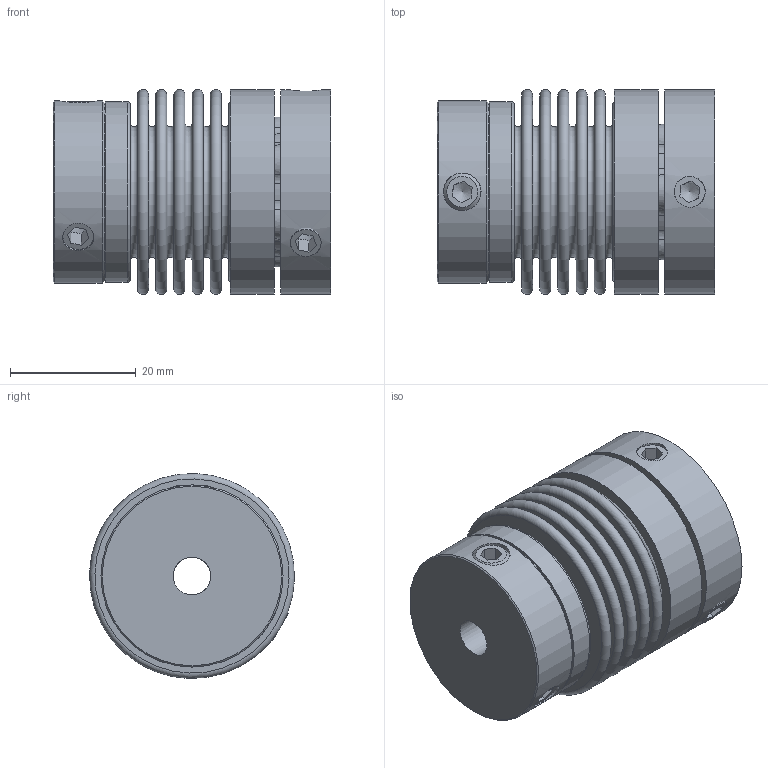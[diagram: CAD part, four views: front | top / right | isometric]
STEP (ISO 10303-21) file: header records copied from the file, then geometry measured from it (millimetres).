
FILE_DESCRIPTION( ( 'KBE1/14 - N7H8 - N14H7 - 98 Sh' ), '1' );
FILE_NAME( 'K:/Konstruktion/Fertigungszeichnungen/Metallbalgkupplung/KB1P/45/KB1P-45-44.stp', '14.12.2015', ( 'KBK-Antriebstechnik' ), ( 'KBK-Antriebstechnik' ), 'PSStep 16.0.42', 'Solid Edge St6', ' ' );
FILE_SCHEMA( ( 'AUTOMOTIVE_DESIGN { 1 0 10303 214 1 1 1 1 }' ) );
Length unit declared in the file: millimetre
Products named in the file (6): Assem1; Gewindestift_DIN_916-m6x6-45h; Stecknabe KB1P-45; Balgaufnahme KB2P-45 für Step; BK45_Standard_0; MN45_Standard_1
Assembly tree (8 placements, depth 2):
  Assem1
    Gewindestift_DIN_916-m6x6-45h  x4
    Stecknabe KB1P-45
    Balgaufnahme KB2P-45 für Step
    BK45_Standard_0
    MN45_Standard_1
Bounding box: 44.25 x 32.66 x 32.66 mm (x, y, z)
Volume: 21334.7 mm3; surface area: 23376.8 mm2
Topology: 8 solids, 8 shells, 174 faces, 397 edges, 259 vertices
Faces by surface type: plane 66, cone 63, torus 26, cylinder 19
Full cylindrical faces by diameter (mm): 4.917 x2, 5 x1, 6 x7, 28.2 x3, 28.8 x2, 29 x1, 32.5 x2
Entity records: 5327 total; most frequent: CARTESIAN_POINT 1069, DIRECTION 705, ORIENTED_EDGE 500, AXIS2_PLACEMENT_3D 322, EDGE_CURVE 250, EDGE_LOOP 225, VERTEX_POINT 204, FACE_OUTER_BOUND 179
